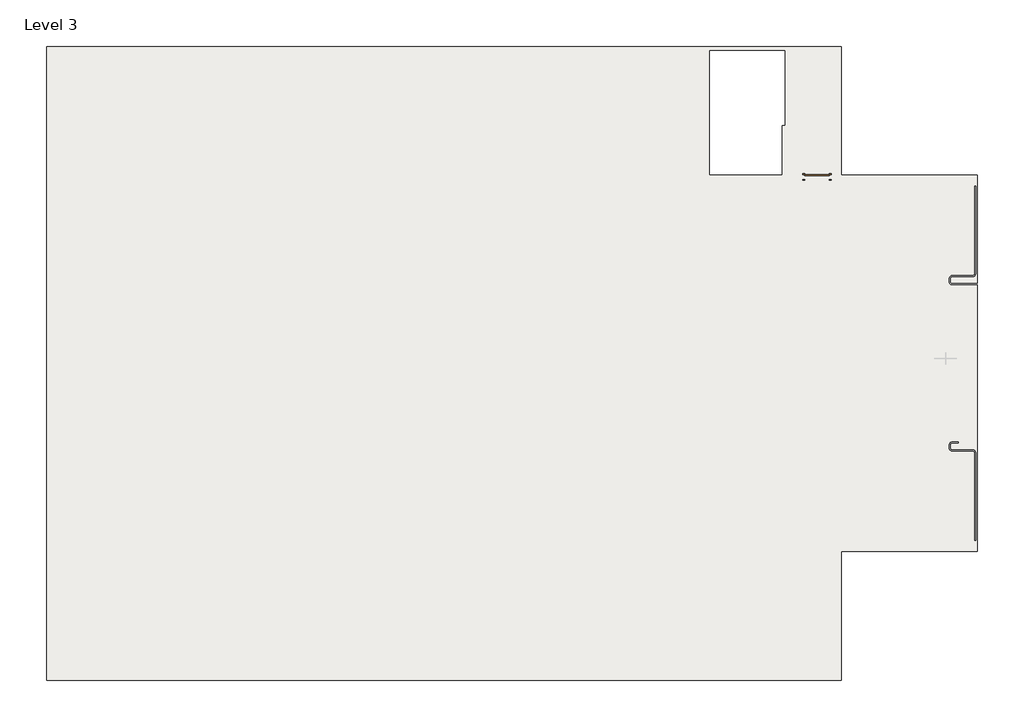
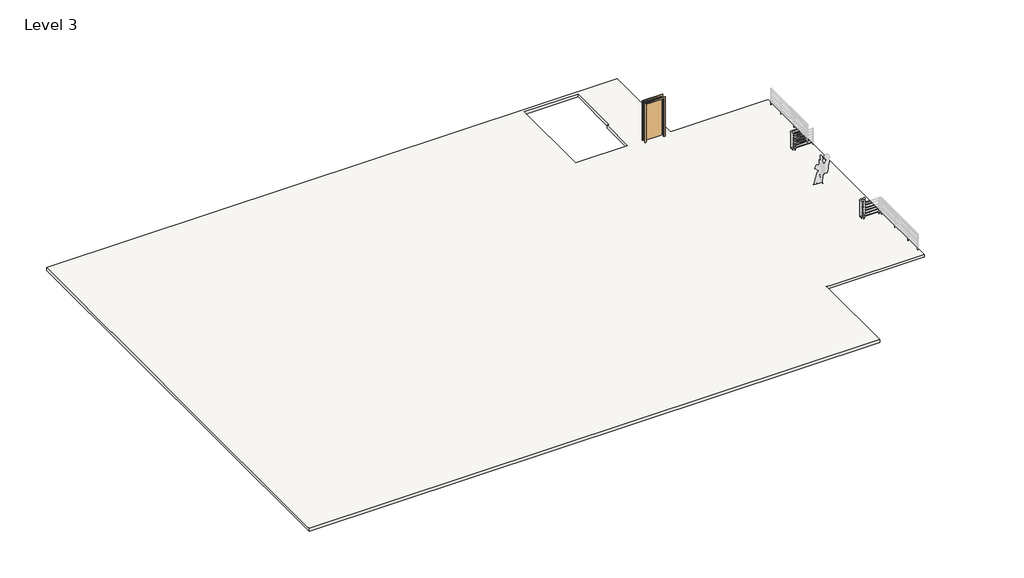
# One storey, part 1 of 4: 1 door, 1 slab.
"""IFC4 building model written with IfcOpenShell, lengths in millimetres."""

from ifc_helpers import new_model, si_unit, origin, place, context, project, spatial, faceted_brep, transform, mapped, element, save
from components import door_d6d25fb4

model = new_model("IFC4")

# Units and contexts
model_context = context("Model", 3, world=origin())
ifc_project = project(units=[si_unit("LENGTHUNIT", "METRE", prefix="MILLI")], contexts=[model_context])

# Site, building, storey
site = spatial("IfcSite", under=ifc_project)
building = spatial("IfcBuilding", under=site)
storey = spatial("IfcBuildingStorey", under=building, Name="Level 3", Elevation=7315.2)

# Door
placement = place(None, origin())
door_shape = door_d6d25fb4(model_context)
element("IfcDoor", 1, ObjectType="Single-Flush : 36\" x 84\"", at=placement, inside=storey, context=model_context, shape_type="MappedRepresentation", body=[
    mapped(door_shape, transform((11946.7089721, 4553.8023319, 7315.2), x_axis=(1.0, 0.0, 0.0), y_axis=(0.0, 1.0, 0.0), z_axis=(0.0, 0.0, 1.0))),
])

# Slab
element("IfcSlab", 2, ObjectType="Concrete Deck with Quarry Tile", at=placement, inside=storey, context=model_context, shape_type="Brep", body=[
    faceted_brep([(-17231.5410279, 9498.8648319, 7162.8), (-17066.4410279, 9498.8648319, 7162.8), (12873.8089721, 9498.8648319, 7162.8), (12873.8089721, 9333.7648319, 7162.8), (12873.8089721, 9076.5898319, 7162.8), (12873.8089721, 5418.9898319, 7162.8), (12873.8089721, 4622.0648319, 7162.8), (13061.1339721, 4622.0648319, 7162.8), (17937.9339721, 4622.0648319, 7162.8), (18023.4049721, 4622.0648319, 7162.8), (18023.4049721, -9633.6851681, 7162.8), (17937.9339721, -9633.6851681, 7162.8), (13061.1339721, -9633.6851681, 7162.8), (12873.8089721, -9633.6851681, 7162.8), (12873.8089721, -10430.6101681, 7162.8), (12873.8089721, -14088.2101681, 7162.8), (12873.8089721, -14345.3851681, 7162.8), (12873.8089721, -14510.4851681, 7162.8), (-17231.5410279, -14510.4851681, 7162.8), (-17231.5410279, -14345.3851681, 7162.8), (7883.7381388, 9333.7648319, 7162.8), (7883.7381388, 4651.5398319, 7162.8), (10616.9131388, 4651.5398319, 7162.8), (10616.9131388, 6514.3648319, 7162.8), (10718.2353862, 6514.3648319, 7162.8), (10718.2353862, 9333.7648319, 7162.8), (12873.8089721, 9498.8648319, 7315.2), (-17066.4410279, 9498.8648319, 7315.2), (-17231.5410279, 9498.8648319, 7315.2), (-17231.5410279, -14345.3851681, 7315.2), (-17231.5410279, -14510.4851681, 7315.2), (12873.8089721, -14510.4851681, 7315.2), (12873.8089721, -14345.3851681, 7315.2), (12873.8089721, -14088.2101681, 7315.2), (12873.8089721, -10430.6101681, 7315.2), (12873.8089721, -9633.6851681, 7315.2), (13061.1339721, -9633.6851681, 7315.2), (17937.9339721, -9633.6851681, 7315.2), (18023.4049721, -9633.6851681, 7315.2), (18023.4049721, 4622.0648319, 7315.2), (17937.9339721, 4622.0648319, 7315.2), (13061.1339721, 4622.0648319, 7315.2), (12873.8089721, 4622.0648319, 7315.2), (12873.8089721, 5418.9898319, 7315.2), (12873.8089721, 9076.5898319, 7315.2), (12873.8089721, 9333.7648319, 7315.2), (7883.7381388, 4651.5398319, 7315.2), (7883.7381388, 9333.7648319, 7315.2), (10718.2353862, 9333.7648319, 7315.2), (10718.2353862, 6514.3648319, 7315.2), (10616.9131388, 6514.3648319, 7315.2), (10616.9131388, 4651.5398319, 7315.2)], [[[0, 1, 2, 3, 4, 5, 6, 7, 8, 9, 10, 11, 12, 13, 14, 15, 16, 17, 18, 19], [20, 21, 22, 23, 24, 25]], [[26, 27, 28, 29, 30, 31, 32, 33, 34, 35, 36, 37, 38, 39, 40, 41, 42, 43, 44, 45], [46, 47, 48, 49, 50, 51]], [[2, 1, 0, 28, 27, 26]], [[6, 5, 4, 3, 2, 26, 45, 44, 43, 42]], [[9, 8, 7, 6, 42, 41, 40, 39]], [[10, 9, 39, 38]], [[13, 12, 11, 10, 38, 37, 36, 35]], [[17, 16, 15, 14, 13, 35, 34, 33, 32, 31]], [[18, 17, 31, 30]], [[0, 19, 18, 30, 29, 28]], [[20, 47, 46, 21]], [[21, 46, 51, 22]], [[22, 51, 50, 23]], [[23, 50, 49, 24]], [[24, 49, 48, 25]], [[47, 20, 25, 48]]]),
])

save(model, "model.ifc")
